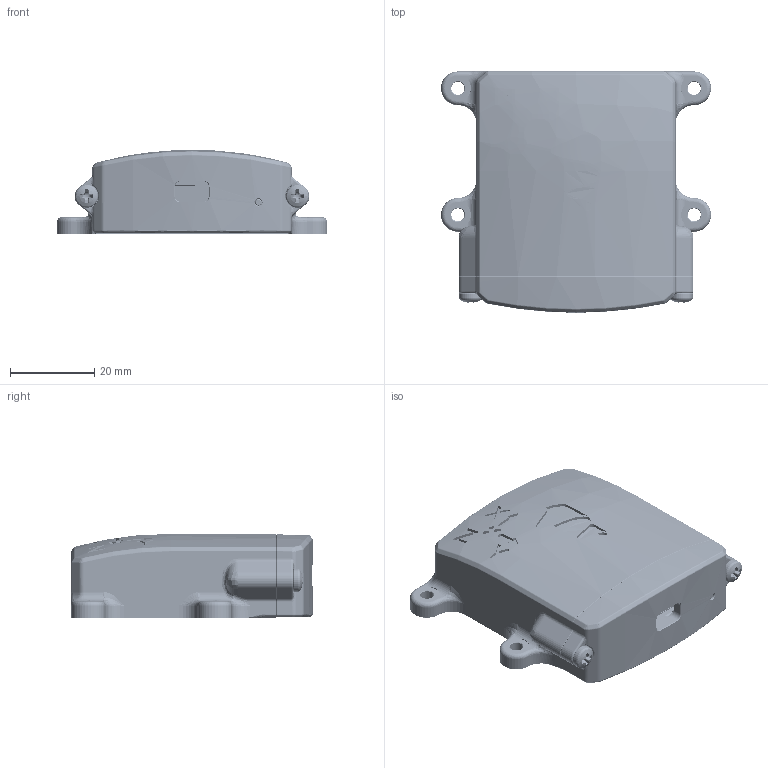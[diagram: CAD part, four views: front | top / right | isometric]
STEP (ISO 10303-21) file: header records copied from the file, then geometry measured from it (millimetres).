
FILE_DESCRIPTION(/* description */ (''),/* implementation_level */ '2;1');
FILE_NAME(/* name */ 'GPS_IMU_Satellite_case_1 v195.step',/* time_stamp */ '2025-05-14T18:10:07+03:00',/* author */ (''),/* organization */ (''),/* preprocessor_version */ 'ST-DEVELOPER v20.1',/* originating_system */ 'Autodesk Translation Framework v14.4.0.0',/* authorisation */ '');
FILE_SCHEMA (('AUTOMOTIVE_DESIGN { 1 0 10303 214 3 1 1 }'));
Products named in the file (106): GPS_IMU_Satellite_case_1; Basecam_GPS_IMU_Split_Satellite_1.0; Board; P3; SM04B-GHS-TB(LF)(SN)---3DModel-STEP-56544; D1; APA2107; R23; R13; XTAL1; ECS-2520MV-160-CN-TR; U6; MMC5983MA; U4; M10Q_case; U3; SOT23-5-2; U2; 5847926720; Extruded; 5847926336; Cylinder; U1; 6216435264; R21; R20; R19; R18; R17; R16; Resistors_0603; R15; R14; R12; R11; R10; R9; R8; R7; R6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
Assembly tree (154 placements, depth 5):
  GPS_IMU_Satellite_case_1
    Basecam_GPS_IMU_Split_Satellite_1.0
      Board
      P3
        SM04B-GHS-TB(LF)(SN)---3DModel-STEP-56544
      D1
        APA2107
      R23
        CR1005-0402
      R13
        CR1005-0402
      XTAL1
        ECS-2520MV-160-CN-TR
      U6
        MMC5983MA
      U4
        M10Q_case
      U3
        SOT23-5-2
      U2
        5847926720
          Extruded
        5847926336
          Cylinder
      U1
        6216435264
      R21
        Resistors_0603
      R20
        L0402
      R19
        Resistors_0603
      R18
        L0402
      R17
        CR1005-0402
      R16
        Resistors_0603
      R15
        L0402
      R14
        L0402
      R12
        L0402
      R11
        CR1005-0402
      R10
        L0402
      R9
        CR1005-0402
      R8
        CR1005-0402
      R7
        CR1005-0402
      R6
        L0402
      R5
        L0402
      R4
        CR1005-0402
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Bounding box: 64 x 57.18 x 20 mm (x, y, z)
Volume: 24531 mm3; surface area: 28652 mm2
Topology: 262 solids, 262 shells, 9152 faces, 21555 edges, 12857 vertices
Faces by surface type: plane 3732, cylinder 2464, bspline 1856, torus 670, sphere 223, cone 207
Full cylindrical faces by diameter (mm): 0.04 x26, 0.4 x36, 0.5 x1, 1.5 x1, 1.65 x1, 2.134 x8, 2.175 x2, 3 x4, 3.1 x4, 3.65 x1, 5.45 x2, 6 x3, 6.1 x2, 6.8 x1
Entity records: 224604 total; most frequent: CARTESIAN_POINT 81059, ORIENTED_EDGE 29844, DIRECTION 28660, EDGE_CURVE 14922, AXIS2_PLACEMENT_3D 10726, VERTEX_POINT 9049, LINE 7208, VECTOR 7208
